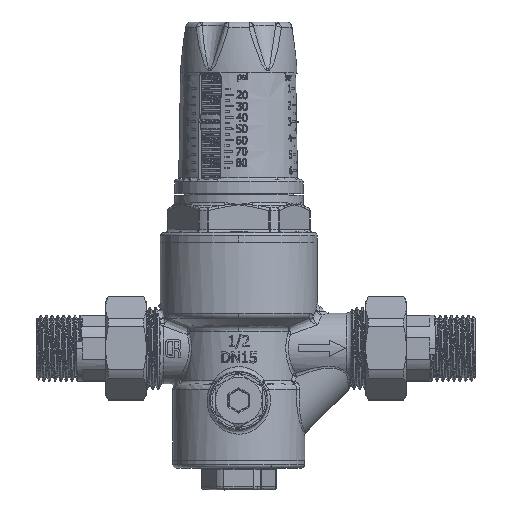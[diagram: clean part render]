
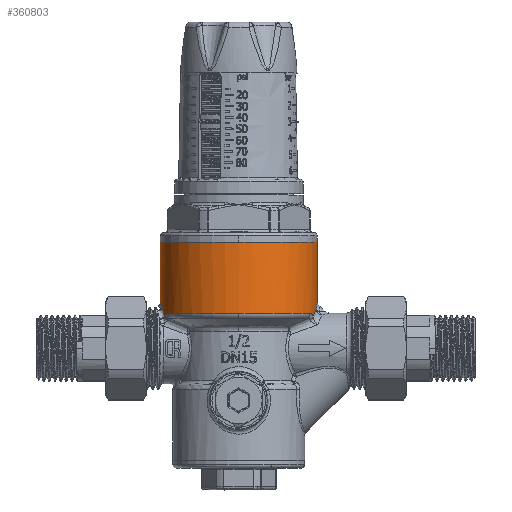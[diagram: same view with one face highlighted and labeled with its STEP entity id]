
A CAD part, top view. The second image highlights one B-rep face of the part: STEP entity #360803.
In plain terms, the highlighted cylindrical face has radius 25 mm (diameter 50 mm), a partial arc.
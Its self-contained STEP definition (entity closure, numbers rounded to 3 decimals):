
#13036 = CARTESIAN_POINT ( 'NONE',  ( -22.552, 11.155, 10.79 ) ) ;
#13241 = EDGE_CURVE ( 'NONE', #142738, #309450, #203479, .T. ) ;
#21157 = CARTESIAN_POINT ( 'NONE',  ( 25., 33.8, 0. ) ) ;
#24198 = VERTEX_POINT ( 'NONE', #186128 ) ;
#41369 = VERTEX_POINT ( 'NONE', #217719 ) ;
#55437 = CARTESIAN_POINT ( 'NONE',  ( -25., 22.4, 0. ) ) ;
#61857 = CYLINDRICAL_SURFACE ( 'NONE', #82370, 25. ) ;
#62379 = B_SPLINE_CURVE_WITH_KNOTS ( 'NONE', 3,
 ( #120088, #291301, #364274, #117863 ),
 .UNSPECIFIED., .F., .F.,
 ( 4, 4 ),
 ( 0., 1. ),
 .UNSPECIFIED. ) ;
#69639 = CARTESIAN_POINT ( 'NONE',  ( -24.942, 14.367, 2.779 ) ) ;
#71070 = VERTEX_POINT ( 'NONE', #228006 ) ;
#81551 = EDGE_CURVE ( 'NONE', #309450, #151210, #275841, .T. ) ;
#82300 = VECTOR ( 'NONE', #162533, 1000. ) ;
#82370 = AXIS2_PLACEMENT_3D ( 'NONE', #93853, #232936, #372350 ) ;
#83353 = CIRCLE ( 'NONE', #149113, 25. ) ;
#83412 = EDGE_CURVE ( 'NONE', #394241, #24198, #62379, .T. ) ;
#85139 = EDGE_CURVE ( 'NONE', #345368, #294405, #114969, .T. ) ;
#91171 = EDGE_CURVE ( 'NONE', #41369, #151210, #158118, .T. ) ;
#93853 = CARTESIAN_POINT ( 'NONE',  ( 0., 22.4, 0. ) ) ;
#94628 = ORIENTED_EDGE ( 'NONE', *, *, #85139, .F. ) ;
#96015 = ORIENTED_EDGE ( 'NONE', *, *, #13241, .F. ) ;
#100705 = DIRECTION ( 'NONE',  ( 0., 0., 1. ) ) ;
#102991 = AXIS2_PLACEMENT_3D ( 'NONE', #241307, #177398, #106709 ) ;
#106709 = DIRECTION ( 'NONE',  ( 1., 0., 0. ) ) ;
#108574 = VECTOR ( 'NONE', #129608, 1000. ) ;
#108805 = EDGE_CURVE ( 'NONE', #323782, #71070, #442344, .T. ) ;
#109995 = CARTESIAN_POINT ( 'NONE',  ( 25., 15.132, 0. ) ) ;
#114969 = CIRCLE ( 'NONE', #318881, 25. ) ;
#116135 = CARTESIAN_POINT ( 'NONE',  ( -23.621, 10.17, 8.189 ) ) ;
#117863 = CARTESIAN_POINT ( 'NONE',  ( 23.67, 10.006, 8.042 ) ) ;
#120088 = CARTESIAN_POINT ( 'NONE',  ( 24.653, 12.469, 4.15 ) ) ;
#129608 = DIRECTION ( 'NONE',  ( 0., -1., 0. ) ) ;
#129954 = B_SPLINE_CURVE_WITH_KNOTS ( 'NONE', 3,
 ( #349162, #401459, #193664, #330706, #364982 ),
 .UNSPECIFIED., .F., .F.,
 ( 4, 1, 4 ),
 ( 0., 0.429, 1. ),
 .UNSPECIFIED. ) ;
#131441 = ORIENTED_EDGE ( 'NONE', *, *, #81551, .F. ) ;
#141953 = CARTESIAN_POINT ( 'NONE',  ( 24.653, 12.469, 4.15 ) ) ;
#142738 = VERTEX_POINT ( 'NONE', #269024 ) ;
#144887 = CARTESIAN_POINT ( 'NONE',  ( -23.787, 10.974, 7.709 ) ) ;
#147888 = CARTESIAN_POINT ( 'NONE',  ( -22.826, 11.155, 10.217 ) ) ;
#149113 = AXIS2_PLACEMENT_3D ( 'NONE', #355654, #150176, #220790 ) ;
#150176 = DIRECTION ( 'NONE',  ( 0., -1., 0. ) ) ;
#151210 = VERTEX_POINT ( 'NONE', #410321 ) ;
#152431 = CARTESIAN_POINT ( 'NONE',  ( -23.621, 10.17, 8.189 ) ) ;
#152838 = EDGE_LOOP ( 'NONE', ( #385209, #420110, #131441, #96015, #306397, #94628, #189934, #448571, #403013, #246290 ) ) ;
#158118 = LINE ( 'NONE', #55437, #82300 ) ;
#162533 = DIRECTION ( 'NONE',  ( 0., -1., 0. ) ) ;
#177398 = DIRECTION ( 'NONE',  ( 0., -1., 0. ) ) ;
#186128 = CARTESIAN_POINT ( 'NONE',  ( 23.67, 10.006, 8.042 ) ) ;
#189934 = ORIENTED_EDGE ( 'NONE', *, *, #249302, .F. ) ;
#193664 = CARTESIAN_POINT ( 'NONE',  ( 23.269, 10.978, 9.184 ) ) ;
#200299 = CARTESIAN_POINT ( 'NONE',  ( 25., 22.4, 0. ) ) ;
#203479 = B_SPLINE_CURVE_WITH_KNOTS ( 'NONE', 3,
 ( #13036, #147888, #284903, #282653, #152431 ),
 .UNSPECIFIED., .F., .F.,
 ( 4, 1, 4 ),
 ( 0., 0.615, 1. ),
 .UNSPECIFIED. ) ;
#205655 = CARTESIAN_POINT ( 'NONE',  ( 0., 11.155, 0. ) ) ;
#217572 = EDGE_CURVE ( 'NONE', #294405, #142738, #83353, .T. ) ;
#217719 = CARTESIAN_POINT ( 'NONE',  ( -25., 33.8, 0. ) ) ;
#220790 = DIRECTION ( 'NONE',  ( 0., 0., 1. ) ) ;
#228006 = CARTESIAN_POINT ( 'NONE',  ( 25., 15.132, 0. ) ) ;
#231958 = CARTESIAN_POINT ( 'NONE',  ( 22.552, 11.155, 10.79 ) ) ;
#232936 = DIRECTION ( 'NONE',  ( 0., -1., 0. ) ) ;
#239631 = FACE_OUTER_BOUND ( 'NONE', #152838, .T. ) ;
#241307 = CARTESIAN_POINT ( 'NONE',  ( 0., 33.8, 0. ) ) ;
#244355 = DIRECTION ( 'NONE',  ( 0., -1., 0. ) ) ;
#246290 = ORIENTED_EDGE ( 'NONE', *, *, #108805, .F. ) ;
#247622 = CARTESIAN_POINT ( 'NONE',  ( 0., 11.155, 25. ) ) ;
#249078 = CARTESIAN_POINT ( 'NONE',  ( 24.739, 13.346, 3.639 ) ) ;
#249302 = EDGE_CURVE ( 'NONE', #24198, #345368, #129954, .T. ) ;
#269024 = CARTESIAN_POINT ( 'NONE',  ( -22.552, 11.155, 10.79 ) ) ;
#275841 = B_SPLINE_CURVE_WITH_KNOTS ( 'NONE', 3,
 ( #277355, #144887, #343532, #69639, #418898, #284130 ),
 .UNSPECIFIED., .F., .F.,
 ( 4, 1, 1, 4 ),
 ( 0., 0.286, 0.857, 1. ),
 .UNSPECIFIED. ) ;
#277355 = CARTESIAN_POINT ( 'NONE',  ( -23.621, 10.17, 8.189 ) ) ;
#278916 = CARTESIAN_POINT ( 'NONE',  ( 24.925, 14.679, 2.409 ) ) ;
#282653 = CARTESIAN_POINT ( 'NONE',  ( -23.531, 10.434, 8.448 ) ) ;
#284130 = CARTESIAN_POINT ( 'NONE',  ( -25., 14.52, 0. ) ) ;
#284903 = CARTESIAN_POINT ( 'NONE',  ( -23.238, 10.991, 9.257 ) ) ;
#289678 = EDGE_CURVE ( 'NONE', #323782, #41369, #431242, .T. ) ;
#291301 = CARTESIAN_POINT ( 'NONE',  ( 24.411, 11.91, 5.589 ) ) ;
#294405 = VERTEX_POINT ( 'NONE', #247622 ) ;
#301865 = CARTESIAN_POINT ( 'NONE',  ( 24.653, 12.469, 4.15 ) ) ;
#306397 = ORIENTED_EDGE ( 'NONE', *, *, #217572, .F. ) ;
#309450 = VERTEX_POINT ( 'NONE', #116135 ) ;
#311934 = EDGE_CURVE ( 'NONE', #71070, #394241, #315821, .T. ) ;
#315821 = B_SPLINE_CURVE_WITH_KNOTS ( 'NONE', 3,
 ( #109995, #354153, #278916, #249078, #141953 ),
 .UNSPECIFIED., .F., .F.,
 ( 4, 1, 4 ),
 ( 0.5, 0.714, 1. ),
 .UNSPECIFIED. ) ;
#318881 = AXIS2_PLACEMENT_3D ( 'NONE', #205655, #244355, #100705 ) ;
#323782 = VERTEX_POINT ( 'NONE', #21157 ) ;
#330706 = CARTESIAN_POINT ( 'NONE',  ( 22.826, 11.155, 10.217 ) ) ;
#343532 = CARTESIAN_POINT ( 'NONE',  ( -24.38, 13.121, 5.874 ) ) ;
#345368 = VERTEX_POINT ( 'NONE', #231958 ) ;
#349162 = CARTESIAN_POINT ( 'NONE',  ( 23.67, 10.006, 8.042 ) ) ;
#354153 = CARTESIAN_POINT ( 'NONE',  ( 24.998, 15.127, 0.72 ) ) ;
#355654 = CARTESIAN_POINT ( 'NONE',  ( 0., 11.155, 0. ) ) ;
#360803 = ADVANCED_FACE ( 'NONE', ( #239631 ), #61857, .T. ) ;
#364274 = CARTESIAN_POINT ( 'NONE',  ( 24.054, 11.068, 6.908 ) ) ;
#364982 = CARTESIAN_POINT ( 'NONE',  ( 22.552, 11.155, 10.79 ) ) ;
#372350 = DIRECTION ( 'NONE',  ( 1., 0., 0. ) ) ;
#385209 = ORIENTED_EDGE ( 'NONE', *, *, #289678, .T. ) ;
#394241 = VERTEX_POINT ( 'NONE', #301865 ) ;
#401459 = CARTESIAN_POINT ( 'NONE',  ( 23.575, 10.347, 8.325 ) ) ;
#403013 = ORIENTED_EDGE ( 'NONE', *, *, #311934, .F. ) ;
#410321 = CARTESIAN_POINT ( 'NONE',  ( -25., 14.52, 0. ) ) ;
#418898 = CARTESIAN_POINT ( 'NONE',  ( -25.001, 14.519, 0.463 ) ) ;
#420110 = ORIENTED_EDGE ( 'NONE', *, *, #91171, .T. ) ;
#431242 = CIRCLE ( 'NONE', #102991, 25. ) ;
#442344 = LINE ( 'NONE', #200299, #108574 ) ;
#448571 = ORIENTED_EDGE ( 'NONE', *, *, #83412, .F. ) ;
